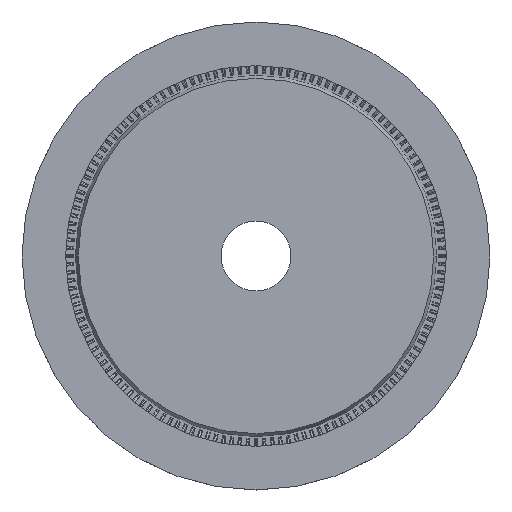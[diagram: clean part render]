
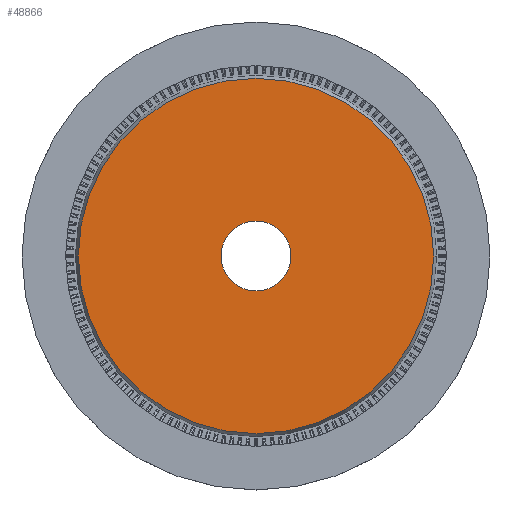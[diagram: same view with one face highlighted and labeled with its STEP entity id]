
A CAD part, top view. The second image highlights one B-rep face of the part: STEP entity #48866.
In plain terms, the highlighted planar face has unit normal (0, 0, 1).
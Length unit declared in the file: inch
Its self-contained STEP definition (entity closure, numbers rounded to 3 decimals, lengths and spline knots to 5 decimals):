
#747 = CARTESIAN_POINT ( 'NONE',  ( 11.44079, 0., 0.625 ) ) ;
#1369 = AXIS2_PLACEMENT_3D ( 'NONE', #22299, #38234, #21964 ) ;
#3780 = CARTESIAN_POINT ( 'NONE',  ( 0., 2.25, 0.625 ) ) ;
#9413 = DIRECTION ( 'NONE',  ( 1., 0., 0. ) ) ;
#17473 = VERTEX_POINT ( 'NONE', #30381 ) ;
#20331 = FACE_OUTER_BOUND ( 'NONE', #69554, .T. ) ;
#21032 = PLANE ( 'NONE',  #28872 ) ;
#21964 = DIRECTION ( 'NONE',  ( 1., 0., 0. ) ) ;
#22046 = AXIS2_PLACEMENT_3D ( 'NONE', #27416, #65185, #48967 ) ;
#22215 = VERTEX_POINT ( 'NONE', #747 ) ;
#22299 = CARTESIAN_POINT ( 'NONE',  ( 0., 0., 0.625 ) ) ;
#22356 = CARTESIAN_POINT ( 'NONE',  ( 0., 0., 0.625 ) ) ;
#23228 = DIRECTION ( 'NONE',  ( 0., 0., 1. ) ) ;
#25619 = FACE_BOUND ( 'NONE', #36444, .T. ) ;
#27320 = CIRCLE ( 'NONE', #1369, 11.44079 ) ;
#27416 = CARTESIAN_POINT ( 'NONE',  ( 0., 0., 0.625 ) ) ;
#28872 = AXIS2_PLACEMENT_3D ( 'NONE', #3780, #47898, #9413 ) ;
#29525 = CIRCLE ( 'NONE', #64455, 2.25 ) ;
#30381 = CARTESIAN_POINT ( 'NONE',  ( 2.25, 0., 0.625 ) ) ;
#34186 = CARTESIAN_POINT ( 'NONE',  ( 0., 0., 0.625 ) ) ;
#35357 = EDGE_CURVE ( 'NONE', #53113, #22215, #42365, .T. ) ;
#35705 = EDGE_CURVE ( 'NONE', #65842, #17473, #38854, .T. ) ;
#36444 = EDGE_LOOP ( 'NONE', ( #57816, #57046 ) ) ;
#37583 = DIRECTION ( 'NONE',  ( 0., 0., 1. ) ) ;
#37701 = ORIENTED_EDGE ( 'NONE', *, *, #68601, .T. ) ;
#38234 = DIRECTION ( 'NONE',  ( 0., 0., 1. ) ) ;
#38854 = CIRCLE ( 'NONE', #47862, 2.25 ) ;
#40522 = DIRECTION ( 'NONE',  ( 1., 0., 0. ) ) ;
#42365 = CIRCLE ( 'NONE', #22046, 11.44079 ) ;
#42406 = CARTESIAN_POINT ( 'NONE',  ( -11.44079, 0., 0.625 ) ) ;
#43607 = DIRECTION ( 'NONE',  ( 1., 0., 0. ) ) ;
#44158 = ORIENTED_EDGE ( 'NONE', *, *, #35357, .T. ) ;
#47862 = AXIS2_PLACEMENT_3D ( 'NONE', #34186, #23228, #40522 ) ;
#47898 = DIRECTION ( 'NONE',  ( 0., 0., 1. ) ) ;
#48866 = ADVANCED_FACE ( 'NONE', ( #20331, #25619 ), #21032, .T. ) ;
#48967 = DIRECTION ( 'NONE',  ( 1., 0., 0. ) ) ;
#53113 = VERTEX_POINT ( 'NONE', #42406 ) ;
#53776 = EDGE_CURVE ( 'NONE', #17473, #65842, #29525, .T. ) ;
#57046 = ORIENTED_EDGE ( 'NONE', *, *, #35705, .F. ) ;
#57816 = ORIENTED_EDGE ( 'NONE', *, *, #53776, .F. ) ;
#64455 = AXIS2_PLACEMENT_3D ( 'NONE', #22356, #37583, #43607 ) ;
#65185 = DIRECTION ( 'NONE',  ( 0., 0., 1. ) ) ;
#65842 = VERTEX_POINT ( 'NONE', #69631 ) ;
#68601 = EDGE_CURVE ( 'NONE', #22215, #53113, #27320, .T. ) ;
#69554 = EDGE_LOOP ( 'NONE', ( #44158, #37701 ) ) ;
#69631 = CARTESIAN_POINT ( 'NONE',  ( -2.25, 0., 0.625 ) ) ;
